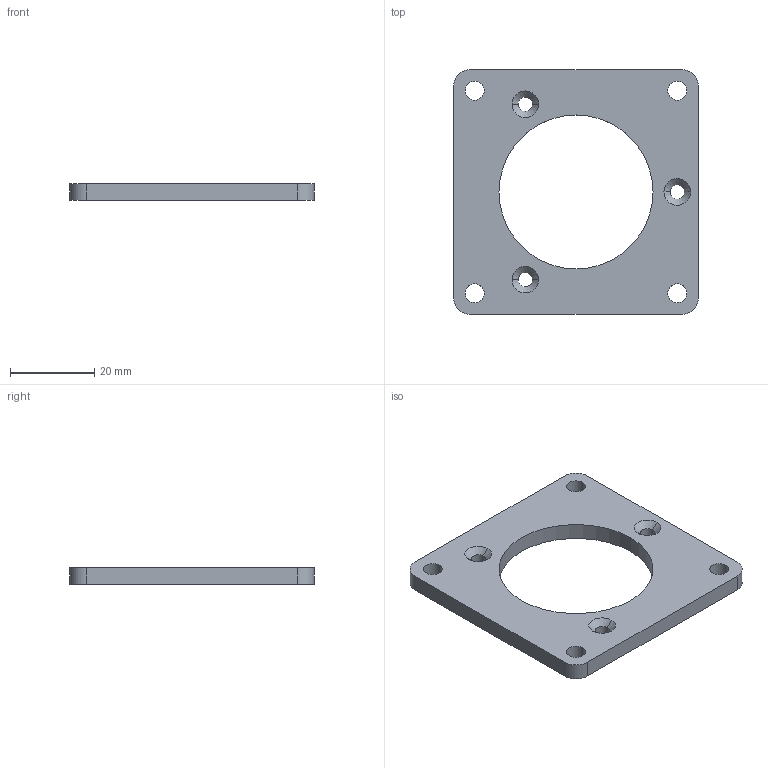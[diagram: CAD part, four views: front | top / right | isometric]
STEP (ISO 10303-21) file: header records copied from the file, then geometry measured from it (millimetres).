
FILE_DESCRIPTION (( 'STEP AP214' ), '1' );
FILE_NAME ('130286_2_8.0010.2100.0000.STEP', '2014-11-06T12:34:07', ( 'admin' ), ( 'Microsoft' ), 'SwSTEP 2.0', 'SolidWorks 2013', '' );
FILE_SCHEMA (( 'AUTOMOTIVE_DESIGN' ));
Length unit declared in the file: millimetre
Products named in the file (1): 130286_2_8.0010.2100.0000
Bounding box: 58 x 58 x 4 mm (x, y, z)
Volume: 8809 mm3; surface area: 6120.7 mm2
Topology: 1 solids, 1 shells, 32 faces, 84 edges, 54 vertices
Faces by surface type: cylinder 20, cone 6, plane 6
Entity records: 1072 total; most frequent: DIRECTION 196, CARTESIAN_POINT 171, ORIENTED_EDGE 168, EDGE_CURVE 84, AXIS2_PLACEMENT_3D 79, VERTEX_POINT 54, EDGE_LOOP 48, CIRCLE 46
